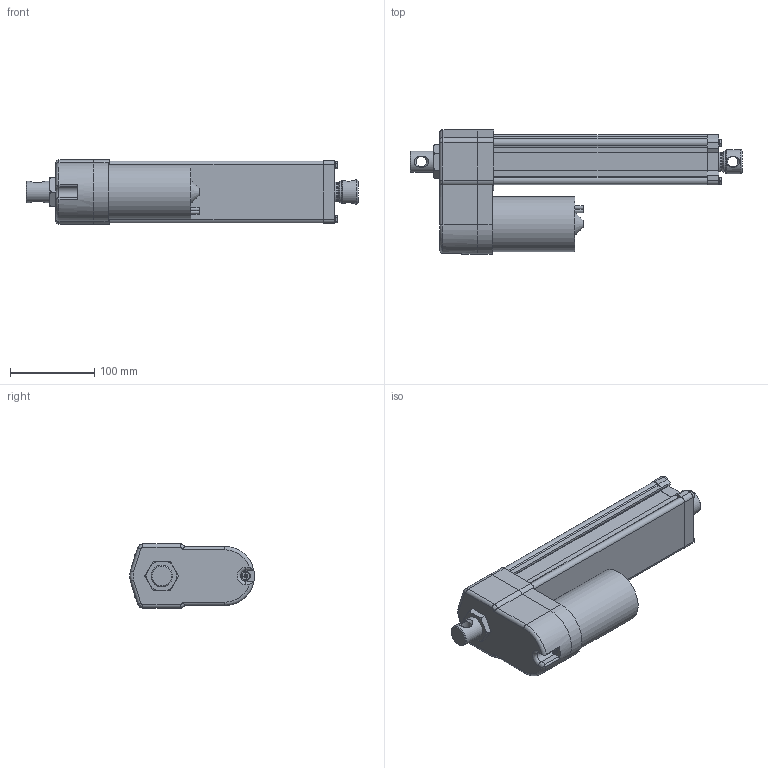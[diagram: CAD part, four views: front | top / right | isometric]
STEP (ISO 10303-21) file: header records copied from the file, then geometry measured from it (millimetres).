
FILE_DESCRIPTION( ( 'STEP AP203' ), '1' );
FILE_NAME( 'p:/temp/worker_283/temp/exporttempdir_4564_673_gBxEJ/format_0/DA12-21B65M15M0N-AMM.stp', '2020-04-12T13:35:11', ( 'License CC BY-ND 4.0' ), ( 'CADENAS' ), ' ', 'PARTsolutions', ' ' );
FILE_SCHEMA( ( 'CONFIG_CONTROL_DESIGN' ) );
Length unit declared in the file: millimetre
Products named in the file (8): DA12-21B65M15M0N-AMM; _ELECTRAK-LA14-DA12-21B65MM0N-15M-EU-REAR; _Electrak-10-EU-RA-D602700; _D602768eu; _ELECTRAK-LA14-DA12--MOTOR; _DA12-21B65M15M0NAMMtube; _ELECTRAK-LA14-DA12--15-PLATE; _ELECTRAK-LA14-DA12--1521B65MNM-ROD
Assembly tree (7 placements, depth 2):
  DA12-21B65M15M0N-AMM
    _ELECTRAK-LA14-DA12-21B65MM0N-15M-EU-REAR
    _Electrak-10-EU-RA-D602700
    _D602768eu
    _ELECTRAK-LA14-DA12--MOTOR
    _DA12-21B65M15M0NAMMtube
    _ELECTRAK-LA14-DA12--15-PLATE
    _ELECTRAK-LA14-DA12--1521B65MNM-ROD
Bounding box: 393.95 x 148 x 76.2 mm (x, y, z)
Volume: 1439594.5 mm3; surface area: 304663.6 mm2
Topology: 7 solids, 8 shells, 378 faces, 942 edges, 610 vertices
Faces by surface type: plane 183, cylinder 131, cone 46, torus 14, bspline 4
Full cylindrical faces by diameter (mm): 4 x2, 4.126 x1, 4.8 x6, 5 x5, 5.6 x4, 7.878 x4, 9.398 x1, 12.2 x2, 16 x1, 21.8 x1, 25.2 x1, 25.4 x1, 26.24 x1, 28.5 x1, 28.6 x2, 47.625 x1, 65.3 x1
Entity records: 11834 total; most frequent: CARTESIAN_POINT 2729, DIRECTION 1869, ORIENTED_EDGE 1744, EDGE_CURVE 872, AXIS2_PLACEMENT_3D 702, VERTEX_POINT 602, EDGE_LOOP 485, LINE 465
